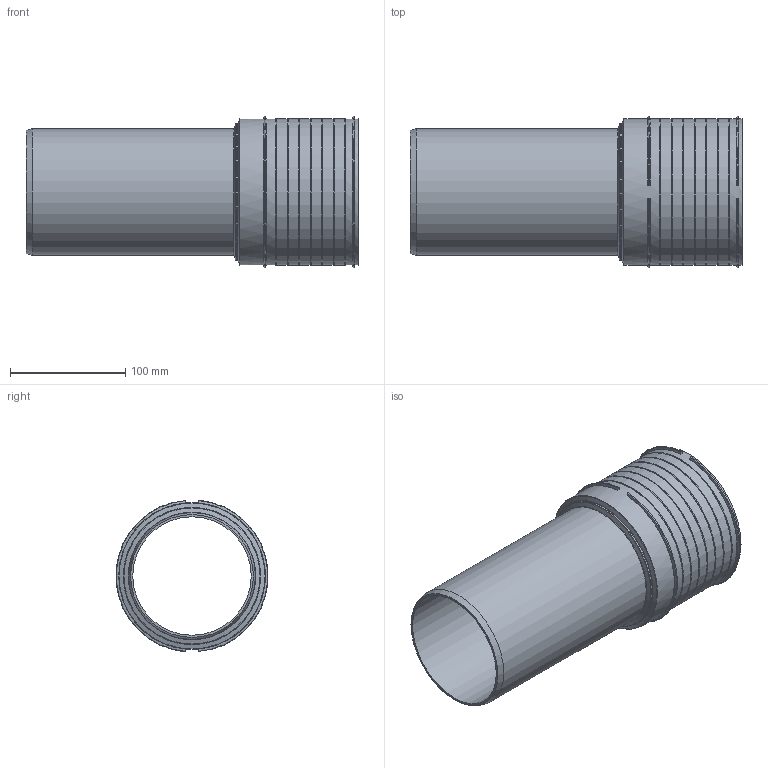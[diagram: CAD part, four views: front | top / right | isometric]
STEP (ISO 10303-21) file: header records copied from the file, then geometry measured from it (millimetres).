
FILE_DESCRIPTION(/* description */ (''),/* implementation_level */ '2;1');
FILE_NAME(/* name */ 'Z:\Geberit\Export\NewStep\PP_ Boden_WC-Muffe\stp\390592.stp',/* time_stamp */ '2014-04-03T19:14:24+02:00',/* author */ ('nelson'),/* organization */ (''),/* preprocessor_version */ 'ST-DEVELOPER v15.2',/* originating_system */ 'Autodesk Inventor 2014',/* authorisation */ '');
FILE_SCHEMA (('AUTOMOTIVE_DESIGN { 1 0 10303 214 3 1 1 }'));
Length unit declared in the file: millimetre
Products named in the file (1): 390592
Bounding box: 288.63 x 131.99 x 131.99 mm (x, y, z)
Volume: 375779.5 mm3; surface area: 213705.6 mm2
Topology: 1 solids, 1 shells, 57 faces, 126 edges, 73 vertices
Faces by surface type: cone 18, torus 17, cylinder 12, plane 10
Full cylindrical faces by diameter (mm): 103 x1, 110.2 x1, 118.85 x1, 120.3 x1, 127.5 x8
Entity records: 1441 total; most frequent: DIRECTION 278, CARTESIAN_POINT 212, ORIENTED_EDGE 170, AXIS2_PLACEMENT_3D 135, EDGE_LOOP 98, EDGE_CURVE 85, CIRCLE 77, VERTEX_POINT 69
